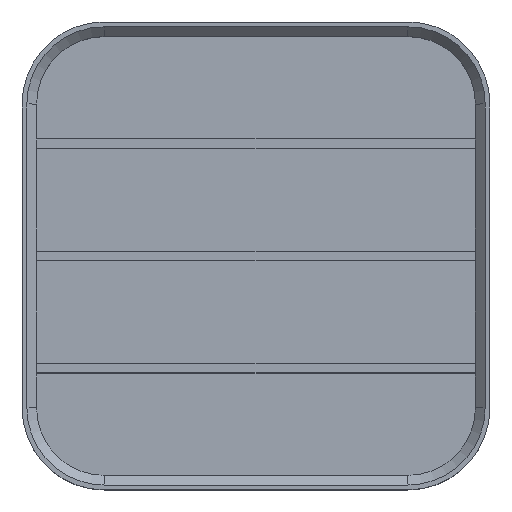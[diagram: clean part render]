
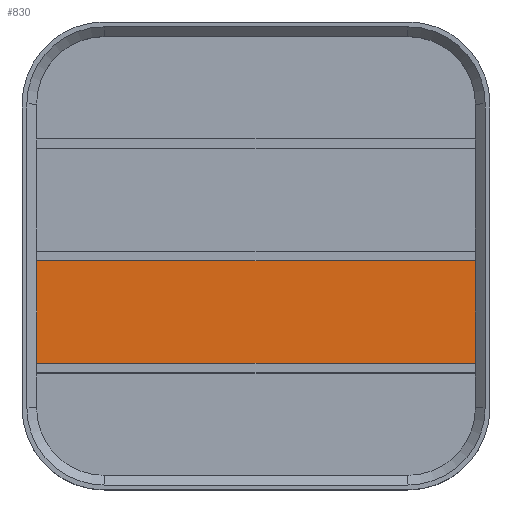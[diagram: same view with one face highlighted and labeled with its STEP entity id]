
A CAD part, top view. The second image highlights one B-rep face of the part: STEP entity #830.
In plain terms, the highlighted planar face has unit normal (0, 0, 1).
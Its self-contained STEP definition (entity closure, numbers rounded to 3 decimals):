
#72=FACE_OUTER_BOUND('',#125,.T.);
#125=EDGE_LOOP('',(#565,#566,#567,#568));
#179=LINE('',#1253,#269);
#185=LINE('',#1264,#275);
#188=LINE('',#1270,#278);
#189=LINE('',#1271,#279);
#269=VECTOR('',#988,10.);
#275=VECTOR('',#998,10.);
#278=VECTOR('',#1003,10.);
#279=VECTOR('',#1004,10.);
#359=VERTEX_POINT('',#1251);
#360=VERTEX_POINT('',#1252);
#363=VERTEX_POINT('',#1263);
#365=VERTEX_POINT('',#1269);
#431=EDGE_CURVE('',#359,#360,#179,.T.);
#437=EDGE_CURVE('',#359,#363,#185,.T.);
#440=EDGE_CURVE('',#365,#360,#188,.T.);
#441=EDGE_CURVE('',#365,#363,#189,.T.);
#565=ORIENTED_EDGE('',*,*,#431,.T.);
#566=ORIENTED_EDGE('',*,*,#440,.F.);
#567=ORIENTED_EDGE('',*,*,#441,.T.);
#568=ORIENTED_EDGE('',*,*,#437,.F.);
#797=PLANE('',#897);
#830=ADVANCED_FACE('',(#72),#797,.T.);
#897=AXIS2_PLACEMENT_3D('',#1268,#1001,#1002);
#988=DIRECTION('',(1.,0.,0.));
#998=DIRECTION('',(0.,1.,0.));
#1001=DIRECTION('center_axis',(0.,0.,1.));
#1002=DIRECTION('ref_axis',(1.,0.,0.));
#1003=DIRECTION('',(0.,-1.,0.));
#1004=DIRECTION('',(-1.,0.,0.));
#1251=CARTESIAN_POINT('',(3.,26.25,3.));
#1252=CARTESIAN_POINT('',(94.,26.25,3.));
#1253=CARTESIAN_POINT('',(71.25,26.25,3.));
#1263=CARTESIAN_POINT('',(3.,47.5,3.));
#1264=CARTESIAN_POINT('',(3.,32.75,3.));
#1268=CARTESIAN_POINT('Origin',(48.5,48.5,3.));
#1269=CARTESIAN_POINT('',(94.,47.5,3.));
#1270=CARTESIAN_POINT('',(94.,64.25,3.));
#1271=CARTESIAN_POINT('',(25.75,47.5,3.));
